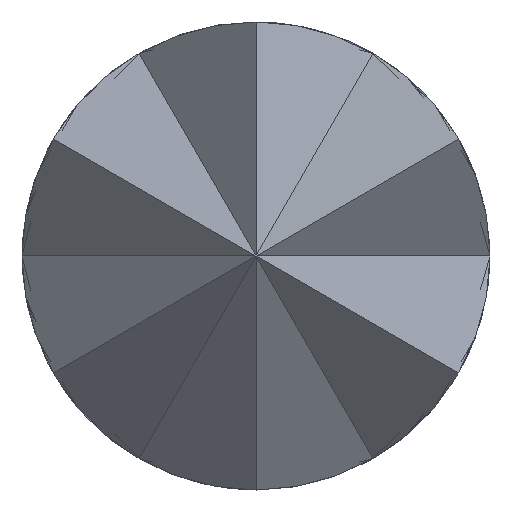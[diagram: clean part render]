
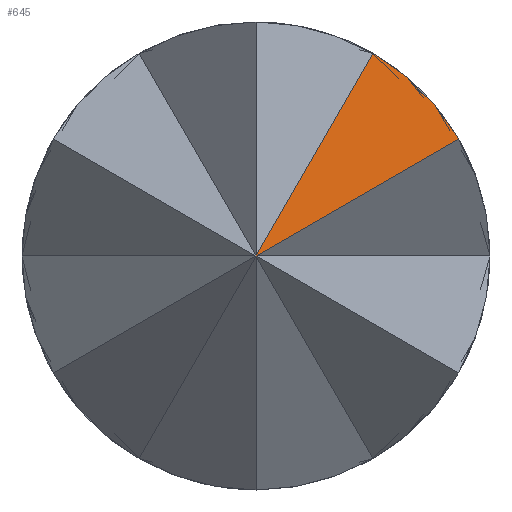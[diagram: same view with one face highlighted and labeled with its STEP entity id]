
A CAD part, left-side view. The second image highlights one B-rep face of the part: STEP entity #645.
In plain terms, the highlighted free-form (B-spline) face has degree [1, 1] with [2, 2] control points.
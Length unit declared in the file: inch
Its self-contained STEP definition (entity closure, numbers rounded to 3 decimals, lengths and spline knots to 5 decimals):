
#8 = ORIENTED_EDGE ( 'NONE', *, *, #862, .T. ) ;
#91 = B_SPLINE_SURFACE_WITH_KNOTS ( 'NONE', 1, 1, ( 
 ( #744, #1098 ),
 ( #125, #488 ) ),
 .UNSPECIFIED., .F., .F., .F.,
 ( 2, 2 ),
 ( 2, 2 ),
 ( 0., 1. ),
 ( 0., 1. ),
 .UNSPECIFIED. ) ;
#93 = B_SPLINE_CURVE_WITH_KNOTS ( 'NONE', 3,
 ( #1071, #893, #347, #1050 ),
 .UNSPECIFIED., .F., .F.,
 ( 4, 4 ),
 ( 0., 1. ),
 .UNSPECIFIED. ) ;
#125 = CARTESIAN_POINT ( 'NONE',  ( 0.0001, -0.02047, 0.00017 ) ) ;
#157 = CARTESIAN_POINT ( 'NONE',  ( 0.04119, -0.01175, 0.02035 ) ) ;
#264 = B_SPLINE_CURVE_WITH_KNOTS ( 'NONE', 3,
 ( #606, #776, #1126, #1119 ),
 .UNSPECIFIED., .F., .F.,
 ( 4, 4 ),
 ( 0., 1. ),
 .UNSPECIFIED. ) ;
#347 = CARTESIAN_POINT ( 'NONE',  ( 0.00816, -0.00678, 0.00392 ) ) ;
#383 = FACE_OUTER_BOUND ( 'NONE', #758, .T. ) ;
#447 = VERTEX_POINT ( 'NONE', #927 ) ;
#466 = B_SPLINE_CURVE_WITH_KNOTS ( 'NONE', 3,
 ( #1042, #511, #521, #157 ),
 .UNSPECIFIED., .F., .F.,
 ( 4, 4 ),
 ( 0., 1. ),
 .UNSPECIFIED. ) ;
#488 = CARTESIAN_POINT ( 'NONE',  ( 0.00024, 0.00012, -0.00012 ) ) ;
#503 = ORIENTED_EDGE ( 'NONE', *, *, #697, .T. ) ;
#511 = CARTESIAN_POINT ( 'NONE',  ( 0.03079, -0.01829, 0.01532 ) ) ;
#521 = CARTESIAN_POINT ( 'NONE',  ( 0.03689, -0.01532, 0.01829 ) ) ;
#568 = VERTEX_POINT ( 'NONE', #917 ) ;
#606 = CARTESIAN_POINT ( 'NONE',  ( 0.04119, -0.01175, 0.02035 ) ) ;
#645 = ADVANCED_FACE ( 'NONE', ( #383 ), #91, .F. ) ;
#667 = ORIENTED_EDGE ( 'NONE', *, *, #833, .F. ) ;
#697 = EDGE_CURVE ( 'NONE', #911, #568, #466, .T. ) ;
#744 = CARTESIAN_POINT ( 'NONE',  ( 0.04137, -0.02047, 0.0206 ) ) ;
#758 = EDGE_LOOP ( 'NONE', ( #8, #667, #503 ) ) ;
#776 = CARTESIAN_POINT ( 'NONE',  ( 0.02762, -0.00783, 0.01357 ) ) ;
#790 = CARTESIAN_POINT ( 'NONE',  ( 0.0235, -0.02035, 0.01175 ) ) ;
#833 = EDGE_CURVE ( 'NONE', #911, #447, #93, .T. ) ;
#862 = EDGE_CURVE ( 'NONE', #568, #447, #264, .T. ) ;
#893 = CARTESIAN_POINT ( 'NONE',  ( 0.01583, -0.01357, 0.00783 ) ) ;
#911 = VERTEX_POINT ( 'NONE', #790 ) ;
#917 = CARTESIAN_POINT ( 'NONE',  ( 0.04119, -0.01175, 0.02035 ) ) ;
#927 = CARTESIAN_POINT ( 'NONE',  ( 0.00048, 0., 0. ) ) ;
#1042 = CARTESIAN_POINT ( 'NONE',  ( 0.0235, -0.02035, 0.01175 ) ) ;
#1050 = CARTESIAN_POINT ( 'NONE',  ( 0.00048, 0., 0. ) ) ;
#1071 = CARTESIAN_POINT ( 'NONE',  ( 0.0235, -0.02035, 0.01175 ) ) ;
#1098 = CARTESIAN_POINT ( 'NONE',  ( 0.04151, 0.00012, 0.0203 ) ) ;
#1119 = CARTESIAN_POINT ( 'NONE',  ( 0.00048, 0., 0. ) ) ;
#1126 = CARTESIAN_POINT ( 'NONE',  ( 0.01405, -0.00392, 0.00678 ) ) ;
